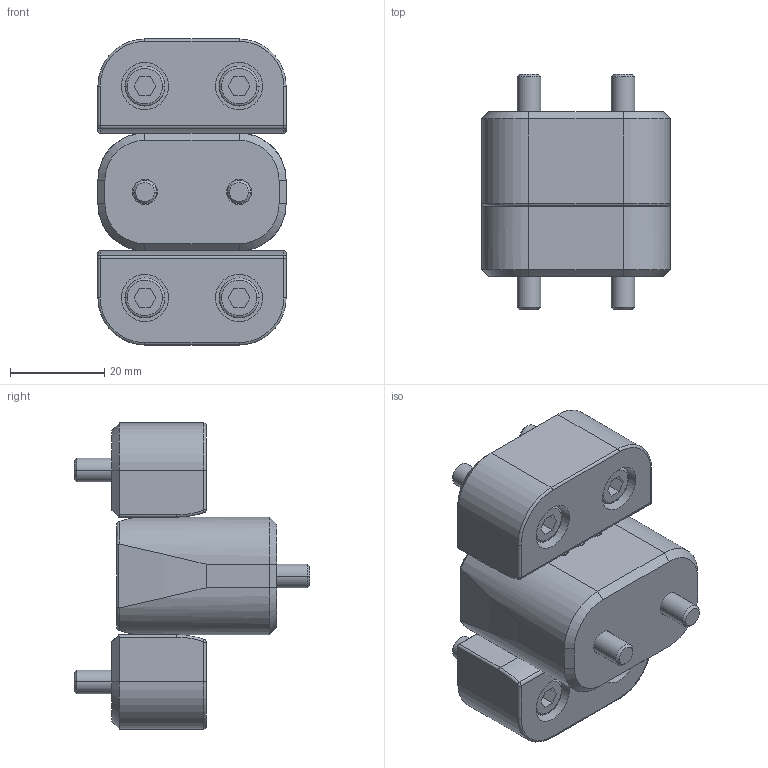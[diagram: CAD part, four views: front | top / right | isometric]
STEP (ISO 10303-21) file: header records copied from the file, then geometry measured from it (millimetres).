
FILE_DESCRIPTION (( 'STEP AP203' ), '1' );
FILE_NAME ('GLM40X65-R.step', '2015-11-05T22:08:24', ( '' ), ( '' ), 'SwSTEP 2.0', 'SolidWorks 2014', '' );
FILE_SCHEMA (( 'CONFIG_CONTROL_DESIGN' ));
Length unit declared in the file: millimetre
Products named in the file (6): GLM40X65-R LH; GLM40X65-R MALE; GLM40X65-R RH; M5_X_35; GLM40X65-R; M5_X_22
Assembly tree (9 placements, depth 2):
  GLM40X65-R
    GLM40X65-R MALE
    GLM40X65-R RH
    GLM40X65-R LH
    M5_X_35  x2
    M5_X_22  x4
Bounding box: 40 x 50 x 65 mm (x, y, z)
Volume: 59692 mm3; surface area: 19680.7 mm2
Topology: 9 solids, 9 shells, 390 faces, 834 edges, 536 vertices
Faces by surface type: cylinder 190, plane 152, torus 28, cone 20
Entity records: 9600 total; most frequent: DIRECTION 1678, CARTESIAN_POINT 1618, ORIENTED_EDGE 1364, AXIS2_PLACEMENT_3D 698, EDGE_CURVE 682, VERTEX_POINT 440, EDGE_LOOP 396, CIRCLE 368
